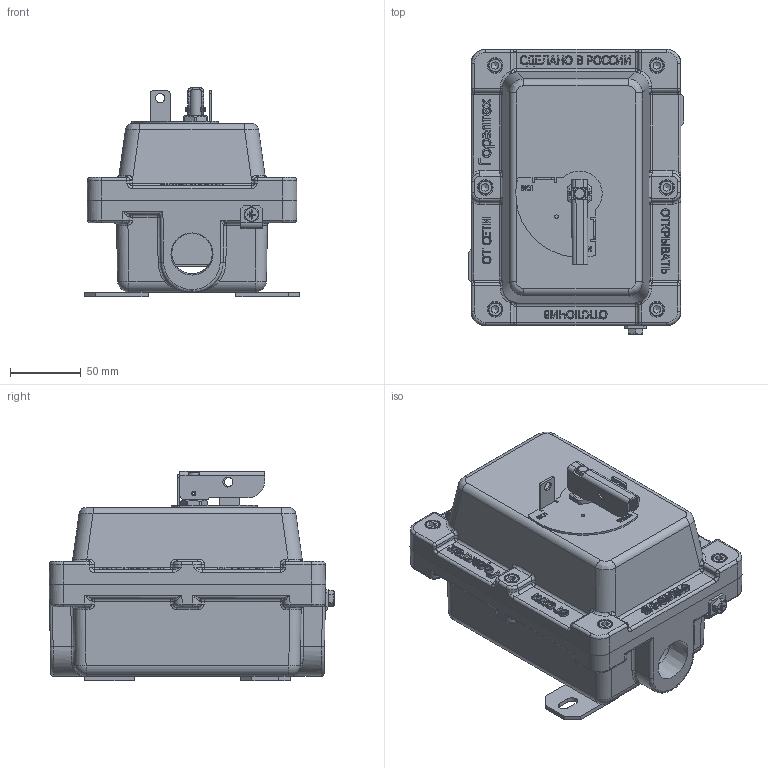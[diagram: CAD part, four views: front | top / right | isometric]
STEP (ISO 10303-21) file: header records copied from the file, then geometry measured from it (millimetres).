
FILE_DESCRIPTION((''),'2;1');
FILE_NAME('\\file-server\cortem_klient\INVENTOR БАЗА МОДЕЛЕЙ\Актуальная база моделей для отдела продаж\ШГВ-РТ3\ШГВ-РТЗ.stp','2019-04-10T16:20:39',('V.E.Dolguev'),(''),'Autodesk Inventor 2012','Autodesk Inventor 2012','');
FILE_SCHEMA(('AUTOMOTIVE_DESIGN { 1 0 10303 214 1 1 1 1 }'));
Length unit declared in the file: millimetre
Products named in the file (1): ШГВ-РТЗ
Bounding box: 152 x 201.48 x 147.5 mm (x, y, z)
Surface area: 327231.6 mm2 (no closed solid volume)
Topology: 0 solids, 35 shells, 3764 faces, 9906 edges, 6400 vertices
Faces by surface type: plane 2057, bspline 1058, cylinder 454, cone 122, torus 50, sphere 23
Full cylindrical faces by diameter (mm): 1.8 x1, 2.5 x2, 2.8 x1, 3 x9, 3.5 x2, 4.9 x11, 4.917 x6, 5.387 x4, 5.459 x2, 6 x15, 6.4 x8, 6.5 x3, 6.6 x6, 7 x2, 7.9 x3, 8 x3, 8.8 x1, 9.4 x1, 10 x6, 11 x6, 11.3 x4, 11.5 x1, 12 x1, 14.3 x1, 15 x1, 16 x1, 17 x1, 28.6 x2
Entity records: 138184 total; most frequent: CARTESIAN_POINT 49806, ORIENTED_EDGE 19236, DIRECTION 14214, EDGE_CURVE 9618, VERTEX_POINT 6359, VECTOR 6242, LINE 6242, EDGE_LOOP 4309
